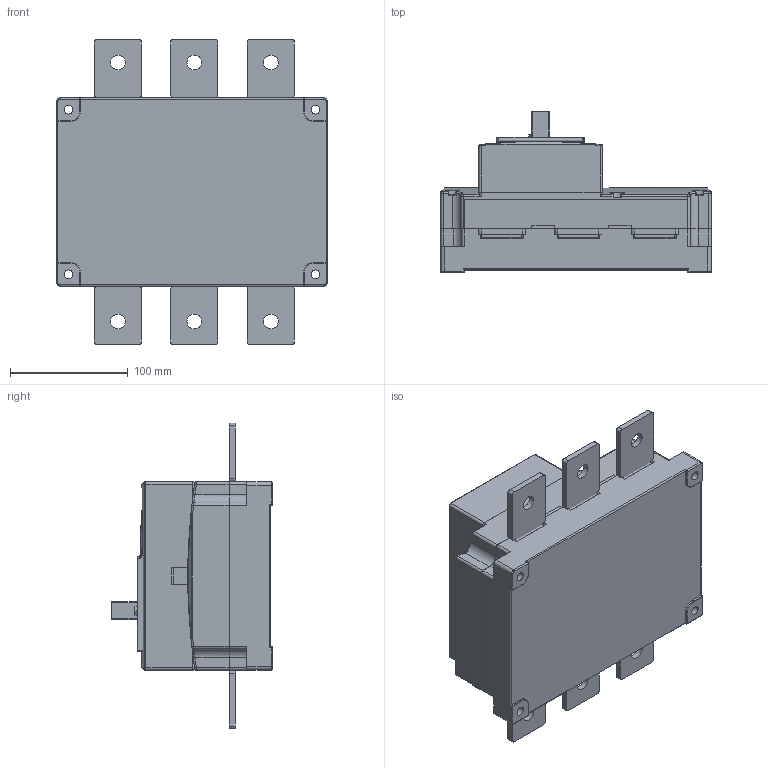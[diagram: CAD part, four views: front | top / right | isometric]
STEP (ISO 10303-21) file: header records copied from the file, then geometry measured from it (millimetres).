
FILE_DESCRIPTION((''),'2;1');
FILE_NAME('NH40-630-3_ASM','2018-05-15T',('zhuanghy'),(''),'PRO/ENGINEER BY PARAMETRIC TECHNOLOGY CORPORATION, 2008380','PRO/ENGINEER BY PARAMETRIC TECHNOLOGY CORPORATION, 2008380','');
FILE_SCHEMA(('CONFIG_CONTROL_DESIGN'));
Length unit declared in the file: millimetre
Products named in the file (6): PRT0044; PRT0045; PRT0046; NH40-630JINGCHUTOU_65; ASM0004_ASM_4_ASM; NH40-630-3_ASM
Assembly tree (10 placements, depth 3):
  NH40-630-3_ASM
    ASM0004_ASM_4_ASM
      PRT0044
      PRT0045
      PRT0046
      NH40-630JINGCHUTOU_65  x6
Bounding box: 230 x 137 x 260 mm (x, y, z)
Volume: 3590913.9 mm3; surface area: 385512.8 mm2
Topology: 9 solids, 9 shells, 862 faces, 2266 edges, 1428 vertices
Faces by surface type: cylinder 351, plane 343, bspline 83, torus 73, sphere 10, cone 2
Entity records: 28985 total; most frequent: CARTESIAN_POINT 11161, ORIENTED_EDGE 3830, DIRECTION 3579, EDGE_CURVE 1915, AXIS2_PLACEMENT_3D 1293, VERTEX_POINT 1198, VECTOR 993, LINE 993
